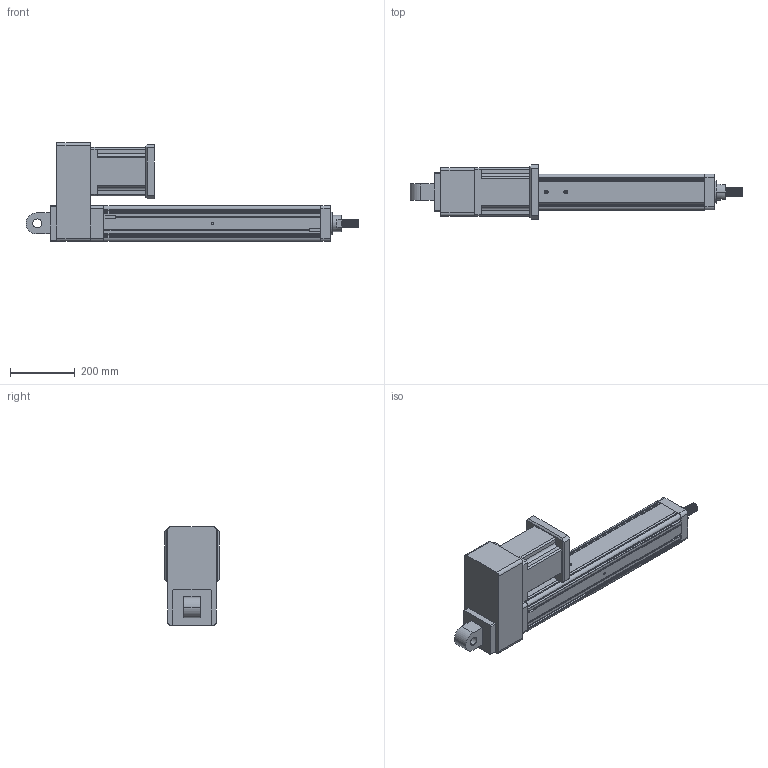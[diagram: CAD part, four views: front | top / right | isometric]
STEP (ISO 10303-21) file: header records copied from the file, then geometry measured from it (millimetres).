
FILE_DESCRIPTION (( 'STEP AP203' ), '1' );
FILE_NAME ('YRJ110-L500-H6K1.STEP', '2020-01-04T07:07:47', ( 'User' ), ( 'China' ), 'SwSTEP 2.0', 'SolidWorks 2016', '' );
FILE_SCHEMA (( 'CONFIG_CONTROL_DESIGN' ));
Length unit declared in the file: millimetre
Products named in the file (8): YRJ110-L500-H6K1; 095-100俴最倰第; 萇儂碟-110; 142熬厒儂; H5-110-1; H6-110; H3-110-2; K1-110
Assembly tree (7 placements, depth 2):
  YRJ110-L500-H6K1
    095-100俴最倰第
    萇儂碟-110
    142熬厒儂
    H5-110-1
    H6-110
    H3-110-2
    K1-110
Bounding box: 1026 x 168 x 305.5 mm (x, y, z)
Volume: 13001139.5 mm3; surface area: 1120592.4 mm2
Topology: 7 solids, 7 shells, 369 faces, 1016 edges, 658 vertices
Faces by surface type: plane 180, cylinder 158, cone 27, bspline 4
Entity records: 20486 total; most frequent: CARTESIAN_POINT 10386, ORIENTED_EDGE 2000, DIRECTION 1860, EDGE_CURVE 1000, VERTEX_POINT 658, VECTOR 636, LINE 636, AXIS2_PLACEMENT_3D 612
